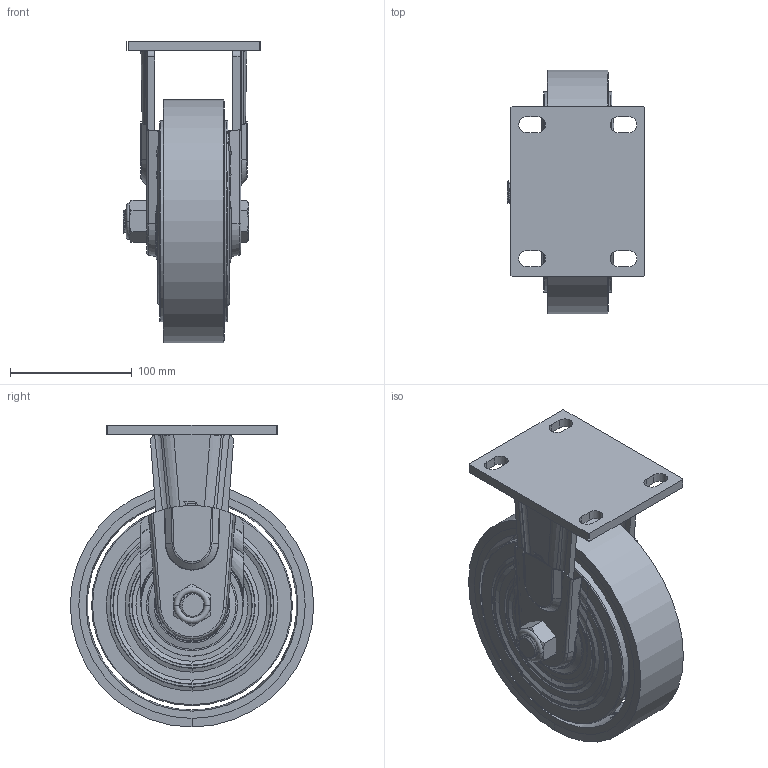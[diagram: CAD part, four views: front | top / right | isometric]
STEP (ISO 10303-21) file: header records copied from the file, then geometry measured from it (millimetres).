
FILE_DESCRIPTION((''),'2;1');
FILE_NAME('PRT0002','2025-03-31T10:02:27',('Administrator'),(''),'CREO PARAMETRIC BY PTC INC, 2022124','CREO PARAMETRIC BY PTC INC, 2022124','');
FILE_SCHEMA(('AP203_CONFIGURATION_CONTROLLED_3D_DESIGN_OF_MECHANICAL_PARTS_AND_ASSEMBLIES_MIM_LF { 1 0 10303 403 2 1 2 }'));
Length unit declared in the file: millimetre
Products named in the file (1): PRT0002
Bounding box: 113 x 200 x 248 mm (x, y, z)
Surface area: 210191.9 mm2 (no closed solid volume)
Topology: 0 solids, 23 shells, 241 faces, 887 edges, 667 vertices
Faces by surface type: plane 84, torus 51, cone 42, cylinder 32, bspline 32
Entity records: 14553 total; most frequent: CARTESIAN_POINT 5866, DIRECTION 1349, ORIENTED_EDGE 1288, EDGE_CURVE 887, VERTEX_POINT 667, AXIS2_PLACEMENT_3D 545, CIRCLE 326, B_SPLINE_CURVE_WITH_KNOTS 305
